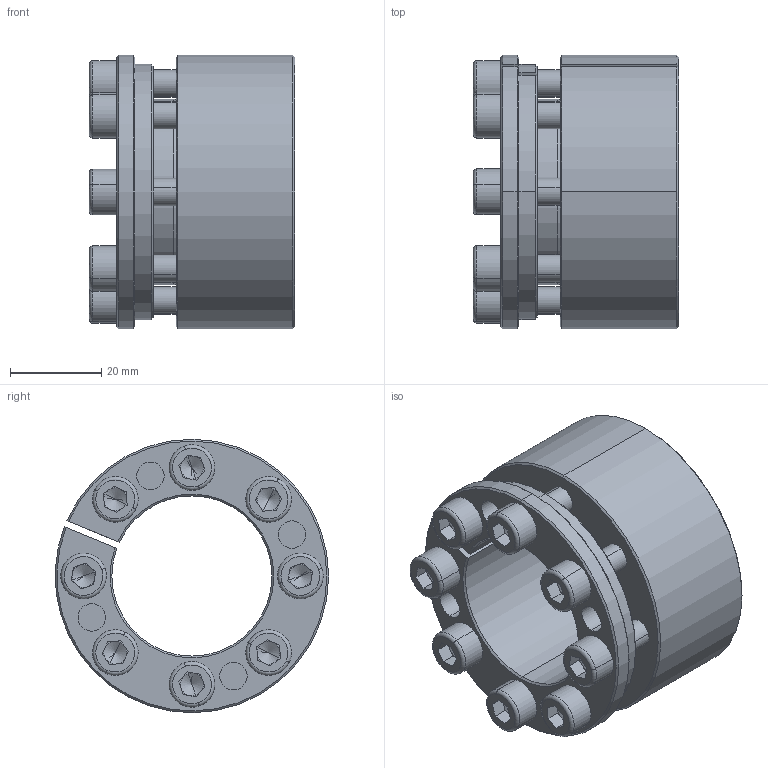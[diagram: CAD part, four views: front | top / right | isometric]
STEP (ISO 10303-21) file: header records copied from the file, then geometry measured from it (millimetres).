
FILE_DESCRIPTION (( 'STEP AP214' ), '1' );
FILE_NAME ('PL-H2 35-60.STEP', '2022-07-25T01:57:52', ( '' ), ( '' ), 'SwSTEP 2.0', 'SolidWorks 2022', '' );
FILE_SCHEMA (( 'AUTOMOTIVE_DESIGN' ));
Length unit declared in the file: millimetre
Products named in the file (1): PL-H2 35-60
Bounding box: 45 x 59.89 x 59.92 mm (x, y, z)
Volume: 61801.1 mm3; surface area: 25895.4 mm2
Topology: 1 solids, 1 shells, 299 faces, 733 edges, 452 vertices
Faces by surface type: plane 128, cylinder 87, cone 68, torus 16
Entity records: 8834 total; most frequent: DIRECTION 1634, CARTESIAN_POINT 1541, ORIENTED_EDGE 1434, EDGE_CURVE 717, AXIS2_PLACEMENT_3D 641, VERTEX_POINT 452, EDGE_LOOP 355, LINE 352
